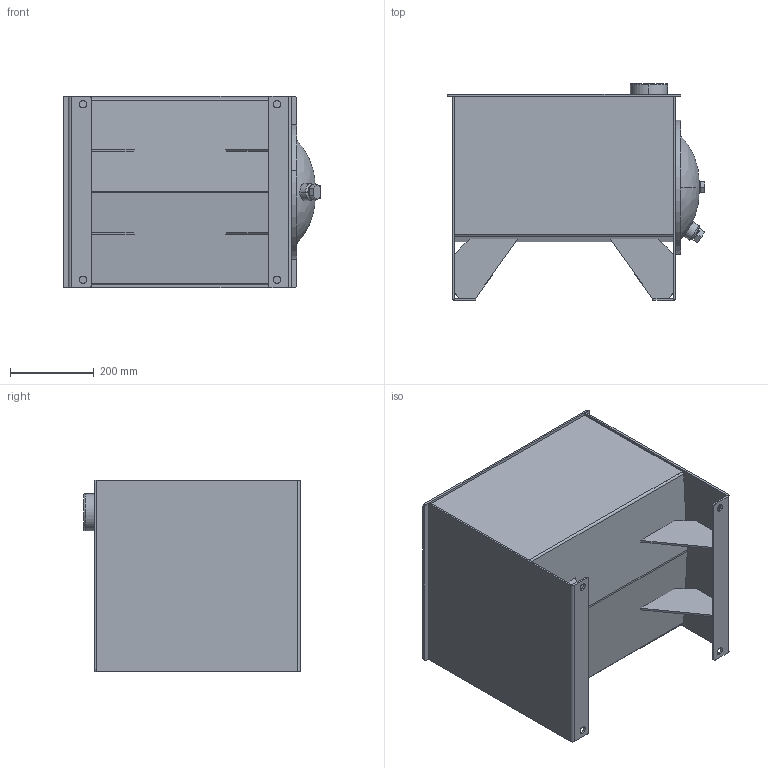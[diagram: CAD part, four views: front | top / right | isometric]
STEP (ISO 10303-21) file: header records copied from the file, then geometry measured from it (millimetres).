
FILE_DESCRIPTION (( 'STEP AP214' ), '1' );
FILE_NAME ('T1-10.STEP', '2019-05-21T11:17:01', ( '' ), ( '' ), 'SwSTEP 2.0', 'SolidWorks 2013', '' );
FILE_SCHEMA (( 'AUTOMOTIVE_DESIGN' ));
Length unit declared in the file: inch
Products named in the file (15): DRAIN; 12.00 END COVER WITH DRAIN; CRUSH WASHER; 12.00 GASKET; 0.625 - 11 BAFFLE NUT; 0.625 - 11 HEX BOLT; FILLER RISER; T1-10-GST; T1-10-BFL; T1-10-BDY; T1-10-EB; T1-10-EA; T1-10-LD; T1-10; TL-ECD-12
Assembly tree (17 placements, depth 3):
  T1-10
    T1-10-LD
    T1-10-EA
    T1-10-EB
    T1-10-BDY
    T1-10-BFL
    T1-10-GST  x4
    FILLER RISER
    TL-ECD-12
      0.625 - 11 HEX BOLT
      0.625 - 11 BAFFLE NUT
      12.00 GASKET
      CRUSH WASHER
      12.00 END COVER WITH DRAIN
      DRAIN
Bounding box: 616.56 x 517.52 x 457.2 mm (x, y, z)
Volume: 6731168 mm3; surface area: 3320718.9 mm2
Topology: 17 solids, 17 shells, 236 faces, 539 edges, 344 vertices
Faces by surface type: plane 139, cylinder 85, cone 6, bspline 4, torus 2
Entity records: 7764 total; most frequent: CARTESIAN_POINT 1280, DIRECTION 1121, ORIENTED_EDGE 970, EDGE_CURVE 485, AXIS2_PLACEMENT_3D 415, VERTEX_POINT 308, VECTOR 291, LINE 291
